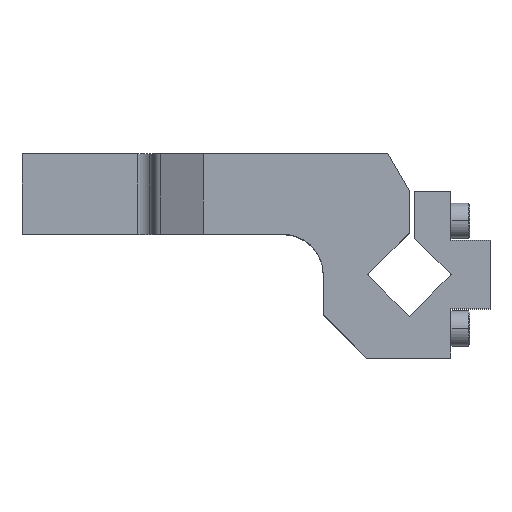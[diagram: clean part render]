
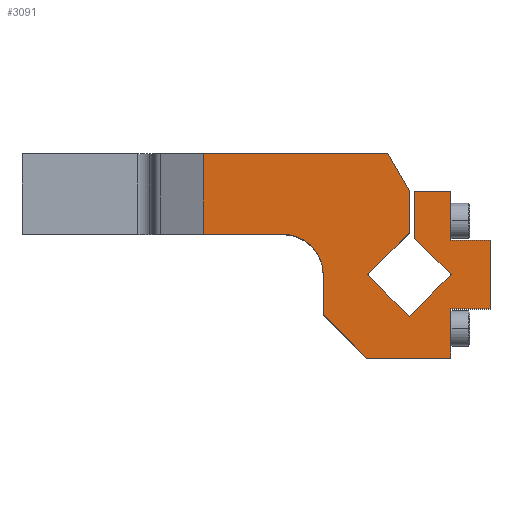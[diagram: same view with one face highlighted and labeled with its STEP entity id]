
A CAD part, top view. The second image highlights one B-rep face of the part: STEP entity #3091.
In plain terms, the highlighted planar face has unit normal (0, 0, 1).
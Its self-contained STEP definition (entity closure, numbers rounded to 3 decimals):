
#1995=CARTESIAN_POINT('',(-8.736,-40.923,3.));
#1996=VERTEX_POINT('',#1995);
#2003=CARTESIAN_POINT('',(-8.736,-40.923,3.));
#2004=VERTEX_POINT('',#2003);
#2005=CARTESIAN_POINT('',(-8.736,-40.923,3.));
#2006=DIRECTION('',(0.,1.0,0.));
#2007=VECTOR('',#2006,0.);
#2008=LINE('',#2005,#2007);
#2009=EDGE_CURVE('',#1996,#2004,#2008,.T.);
#2557=CARTESIAN_POINT('',(-6.736,-11.811,3.));
#2558=VERTEX_POINT('',#2557);
#2567=CARTESIAN_POINT('',(-6.736,5.633,3.));
#2568=VERTEX_POINT('',#2567);
#2569=CARTESIAN_POINT('',(-6.736,5.633,3.));
#2570=DIRECTION('',(0.0,-1.0,0.0));
#2571=VECTOR('',#2570,17.444);
#2572=LINE('',#2569,#2571);
#2573=EDGE_CURVE('',#2568,#2558,#2572,.T.);
#2616=CARTESIAN_POINT('',(6.82,-25.367,3.));
#2617=VERTEX_POINT('',#2616);
#2624=CARTESIAN_POINT('',(6.82,-25.367,3.));
#2625=DIRECTION('',(-0.707,0.707,0.));
#2626=VECTOR('',#2625,19.171);
#2627=LINE('',#2624,#2626);
#2628=EDGE_CURVE('',#2617,#2558,#2627,.T.);
#2672=CARTESIAN_POINT('',(6.764,5.633,3.));
#2673=VERTEX_POINT('',#2672);
#2674=CARTESIAN_POINT('',(-6.736,5.633,3.));
#2675=DIRECTION('',(1.0,0.0,0.0));
#2676=VECTOR('',#2675,13.5);
#2677=LINE('',#2674,#2676);
#2678=EDGE_CURVE('',#2568,#2673,#2677,.T.);
#2702=CARTESIAN_POINT('',(6.764,-12.617,3.));
#2703=VERTEX_POINT('',#2702);
#2704=CARTESIAN_POINT('',(6.764,5.633,3.));
#2705=DIRECTION('',(0.0,-1.0,0.0));
#2706=VECTOR('',#2705,18.25);
#2707=LINE('',#2704,#2706);
#2708=EDGE_CURVE('',#2673,#2703,#2707,.T.);
#2737=CARTESIAN_POINT('',(21.264,-12.617,3.));
#2738=VERTEX_POINT('',#2737);
#2739=CARTESIAN_POINT('',(6.764,-12.617,3.));
#2740=DIRECTION('',(1.0,0.0,0.0));
#2741=VECTOR('',#2740,14.5);
#2742=LINE('',#2739,#2741);
#2743=EDGE_CURVE('',#2703,#2738,#2742,.T.);
#2768=CARTESIAN_POINT('',(21.264,-38.117,3.));
#2769=VERTEX_POINT('',#2768);
#2770=CARTESIAN_POINT('',(21.264,-12.617,3.));
#2771=DIRECTION('',(0.0,-1.0,0.0));
#2772=VECTOR('',#2771,25.5);
#2773=LINE('',#2770,#2772);
#2774=EDGE_CURVE('',#2738,#2769,#2773,.T.);
#2799=CARTESIAN_POINT('',(6.764,-38.117,3.));
#2800=VERTEX_POINT('',#2799);
#2801=CARTESIAN_POINT('',(21.264,-38.117,3.));
#2802=DIRECTION('',(-1.0,0.0,0.0));
#2803=VECTOR('',#2802,14.5);
#2804=LINE('',#2801,#2803);
#2805=EDGE_CURVE('',#2769,#2800,#2804,.T.);
#2830=CARTESIAN_POINT('',(6.764,-56.367,3.));
#2831=VERTEX_POINT('',#2830);
#2832=CARTESIAN_POINT('',(6.764,-38.117,3.));
#2833=DIRECTION('',(0.0,-1.0,0.0));
#2834=VECTOR('',#2833,18.25);
#2835=LINE('',#2832,#2834);
#2836=EDGE_CURVE('',#2800,#2831,#2835,.T.);
#2865=CARTESIAN_POINT('',(-8.736,-40.923,3.));
#2866=DIRECTION('',(0.707,0.707,0.0));
#2867=VECTOR('',#2866,22.);
#2868=LINE('',#2865,#2867);
#2869=EDGE_CURVE('',#2004,#2617,#2868,.T.);
#2987=CARTESIAN_POINT('',(-43.3,-10.752,3.));
#2988=DIRECTION('',(0.0,0.0,1.0));
#2989=DIRECTION('',(1.0,0.0,0.0));
#2990=AXIS2_PLACEMENT_3D('',#2987,#2988,#2989);
#2991=PLANE('',#2990);
#2992=CARTESIAN_POINT('',(-85.302,19.633,3.));
#2993=VERTEX_POINT('',#2992);
#2994=CARTESIAN_POINT('',(-85.302,-10.367,3.));
#2995=VERTEX_POINT('',#2994);
#2996=CARTESIAN_POINT('',(-85.302,19.633,3.));
#2997=DIRECTION('',(0.0,-1.0,0.0));
#2998=VECTOR('',#2997,30.);
#2999=LINE('',#2996,#2998);
#3000=EDGE_CURVE('',#2993,#2995,#2999,.T.);
#3001=ORIENTED_EDGE('',*,*,#3000,.T.);
#3002=CARTESIAN_POINT('',(-55.736,-10.367,3.));
#3003=VERTEX_POINT('',#3002);
#3004=CARTESIAN_POINT('',(-55.736,-10.367,3.));
#3005=DIRECTION('',(-1.0,0.0,0.0));
#3006=VECTOR('',#3005,29.566);
#3007=LINE('',#3004,#3006);
#3008=EDGE_CURVE('',#3003,#2995,#3007,.T.);
#3009=ORIENTED_EDGE('',*,*,#3008,.F.);
#3010=CARTESIAN_POINT('',(-40.736,-25.367,3.));
#3011=VERTEX_POINT('',#3010);
#3012=CARTESIAN_POINT('',(-55.736,-25.367,3.));
#3013=DIRECTION('',(0.0,0.0,1.0));
#3014=DIRECTION('',(-1.0,0.0,0.0));
#3015=AXIS2_PLACEMENT_3D('',#3012,#3013,#3014);
#3016=CIRCLE('',#3015,15.);
#3017=EDGE_CURVE('',#3011,#3003,#3016,.T.);
#3018=ORIENTED_EDGE('',*,*,#3017,.F.);
#3019=CARTESIAN_POINT('',(-40.736,-40.367,3.));
#3020=VERTEX_POINT('',#3019);
#3021=CARTESIAN_POINT('',(-40.736,-40.367,3.));
#3022=DIRECTION('',(0.0,1.0,0.0));
#3023=VECTOR('',#3022,15.);
#3024=LINE('',#3021,#3023);
#3025=EDGE_CURVE('',#3020,#3011,#3024,.T.);
#3026=ORIENTED_EDGE('',*,*,#3025,.F.);
#3027=CARTESIAN_POINT('',(-24.736,-56.367,3.));
#3028=VERTEX_POINT('',#3027);
#3029=CARTESIAN_POINT('',(-24.736,-56.367,3.));
#3030=DIRECTION('',(-0.707,0.707,0.0));
#3031=VECTOR('',#3030,22.627);
#3032=LINE('',#3029,#3031);
#3033=EDGE_CURVE('',#3028,#3020,#3032,.T.);
#3034=ORIENTED_EDGE('',*,*,#3033,.F.);
#3035=CARTESIAN_POINT('',(6.764,-56.367,3.));
#3036=DIRECTION('',(-1.0,0.0,0.0));
#3037=VECTOR('',#3036,31.5);
#3038=LINE('',#3035,#3037);
#3039=EDGE_CURVE('',#2831,#3028,#3038,.T.);
#3040=ORIENTED_EDGE('',*,*,#3039,.F.);
#3041=ORIENTED_EDGE('',*,*,#2836,.F.);
#3042=ORIENTED_EDGE('',*,*,#2805,.F.);
#3043=ORIENTED_EDGE('',*,*,#2774,.F.);
#3044=ORIENTED_EDGE('',*,*,#2743,.F.);
#3045=ORIENTED_EDGE('',*,*,#2708,.F.);
#3046=ORIENTED_EDGE('',*,*,#2678,.F.);
#3047=ORIENTED_EDGE('',*,*,#2573,.T.);
#3048=ORIENTED_EDGE('',*,*,#2628,.F.);
#3049=ORIENTED_EDGE('',*,*,#2869,.F.);
#3050=ORIENTED_EDGE('',*,*,#2009,.F.);
#3051=CARTESIAN_POINT('',(-24.292,-25.367,3.));
#3052=VERTEX_POINT('',#3051);
#3053=CARTESIAN_POINT('',(-24.292,-25.367,3.));
#3054=DIRECTION('',(0.707,-0.707,0.0));
#3055=VECTOR('',#3054,22.0);
#3056=LINE('',#3053,#3055);
#3057=EDGE_CURVE('',#3052,#1996,#3056,.T.);
#3058=ORIENTED_EDGE('',*,*,#3057,.F.);
#3059=CARTESIAN_POINT('',(-8.736,-9.81,3.));
#3060=VERTEX_POINT('',#3059);
#3061=CARTESIAN_POINT('',(-8.736,-9.81,3.));
#3062=DIRECTION('',(-0.707,-0.707,0.0));
#3063=VECTOR('',#3062,22.);
#3064=LINE('',#3061,#3063);
#3065=EDGE_CURVE('',#3060,#3052,#3064,.T.);
#3066=ORIENTED_EDGE('',*,*,#3065,.F.);
#3067=CARTESIAN_POINT('',(-8.736,5.731,3.));
#3068=VERTEX_POINT('',#3067);
#3069=CARTESIAN_POINT('',(-8.736,5.731,3.));
#3070=DIRECTION('',(0.0,-1.0,0.0));
#3071=VECTOR('',#3070,15.542);
#3072=LINE('',#3069,#3071);
#3073=EDGE_CURVE('',#3068,#3060,#3072,.T.);
#3074=ORIENTED_EDGE('',*,*,#3073,.F.);
#3075=CARTESIAN_POINT('',(-16.762,19.633,3.));
#3076=VERTEX_POINT('',#3075);
#3077=CARTESIAN_POINT('',(-16.762,19.633,3.));
#3078=DIRECTION('',(0.5,-0.866,0.0));
#3079=VECTOR('',#3078,16.053);
#3080=LINE('',#3077,#3079);
#3081=EDGE_CURVE('',#3076,#3068,#3080,.T.);
#3082=ORIENTED_EDGE('',*,*,#3081,.F.);
#3083=CARTESIAN_POINT('',(-85.302,19.633,3.));
#3084=DIRECTION('',(1.0,0.0,0.0));
#3085=VECTOR('',#3084,68.54);
#3086=LINE('',#3083,#3085);
#3087=EDGE_CURVE('',#2993,#3076,#3086,.T.);
#3088=ORIENTED_EDGE('',*,*,#3087,.F.);
#3089=EDGE_LOOP('',(#3001,#3009,#3018,#3026,#3034,#3040,#3041,#3042,#3043,#3044,#3045,#3046,#3047,#3048,#3049,#3050,#3058,#3066,#3074,#3082,#3088));
#3090=FACE_OUTER_BOUND('',#3089,.T.);
#3091=ADVANCED_FACE('',(#3090),#2991,.T.);
